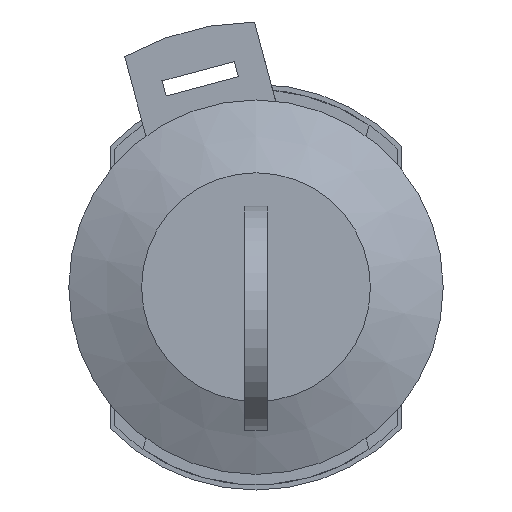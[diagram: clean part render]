
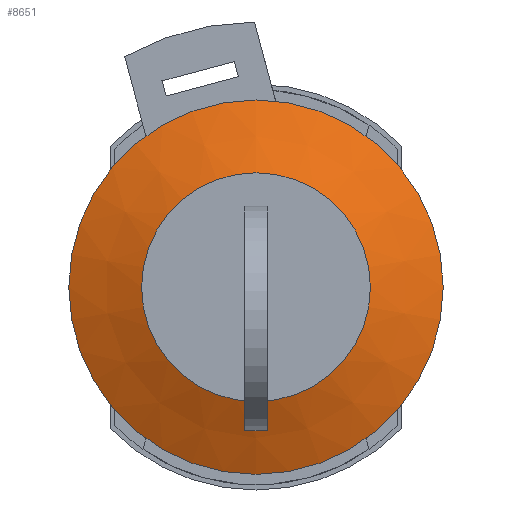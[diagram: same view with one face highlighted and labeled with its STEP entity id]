
A CAD part, left-side view. The second image highlights one B-rep face of the part: STEP entity #8651.
In plain terms, the highlighted conical face has half-angle 66.801 degrees and reference radius 18 mm.
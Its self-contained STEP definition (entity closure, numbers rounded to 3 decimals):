
#581 = AXIS2_PLACEMENT_3D ( 'NONE', #4180, #4181, #4165 ) ;
#2934 = FACE_OUTER_BOUND ( 'NONE', #10574, .T. ) ;
#2935 = FACE_BOUND ( 'NONE', #10582, .T. ) ;
#2937 = CONICAL_SURFACE ( 'NONE', #581, 18., 1.166 ) ;
#4165 = DIRECTION ( 'NONE',  ( 0., 0., -1. ) ) ;
#4180 = CARTESIAN_POINT ( 'NONE',  ( -13., 0., 0. ) ) ;
#4181 = DIRECTION ( 'NONE',  ( 1., 0., 0. ) ) ;
#6604 = CIRCLE ( 'NONE', #7339, 18. ) ;
#6608 = CIRCLE ( 'NONE', #7347, 11. ) ;
#7102 = CARTESIAN_POINT ( 'NONE',  ( -13., 0., 0. ) ) ;
#7104 = DIRECTION ( 'NONE',  ( 1., 0., 0. ) ) ;
#7105 = DIRECTION ( 'NONE',  ( 0., 1., 0. ) ) ;
#7106 = CARTESIAN_POINT ( 'NONE',  ( -16., 0., 0. ) ) ;
#7112 = DIRECTION ( 'NONE',  ( 1., 0., 0. ) ) ;
#7113 = DIRECTION ( 'NONE',  ( 0., 0., -1. ) ) ;
#7252 = VERTEX_POINT ( 'NONE', #7253 ) ;
#7253 = CARTESIAN_POINT ( 'NONE',  ( -13., 18., 0. ) ) ;
#7258 = VERTEX_POINT ( 'NONE', #7259 ) ;
#7259 = CARTESIAN_POINT ( 'NONE',  ( -16., 0., -11. ) ) ;
#7339 = AXIS2_PLACEMENT_3D ( 'NONE', #7102, #7104, #7105 ) ;
#7347 = AXIS2_PLACEMENT_3D ( 'NONE', #7106, #7112, #7113 ) ;
#7626 = ORIENTED_EDGE ( 'NONE', *, *, #10323, .F. ) ;
#7627 = ORIENTED_EDGE ( 'NONE', *, *, #10326, .T. ) ;
#8651 = ADVANCED_FACE ( 'NONE', ( #2935, #2934 ), #2937, .T. ) ;
#10323 = EDGE_CURVE ( 'NONE', #7252, #7252, #6604, .T. ) ;
#10326 = EDGE_CURVE ( 'NONE', #7258, #7258, #6608, .T. ) ;
#10574 = EDGE_LOOP ( 'NONE', ( #7626 ) ) ;
#10582 = EDGE_LOOP ( 'NONE', ( #7627 ) ) ;
